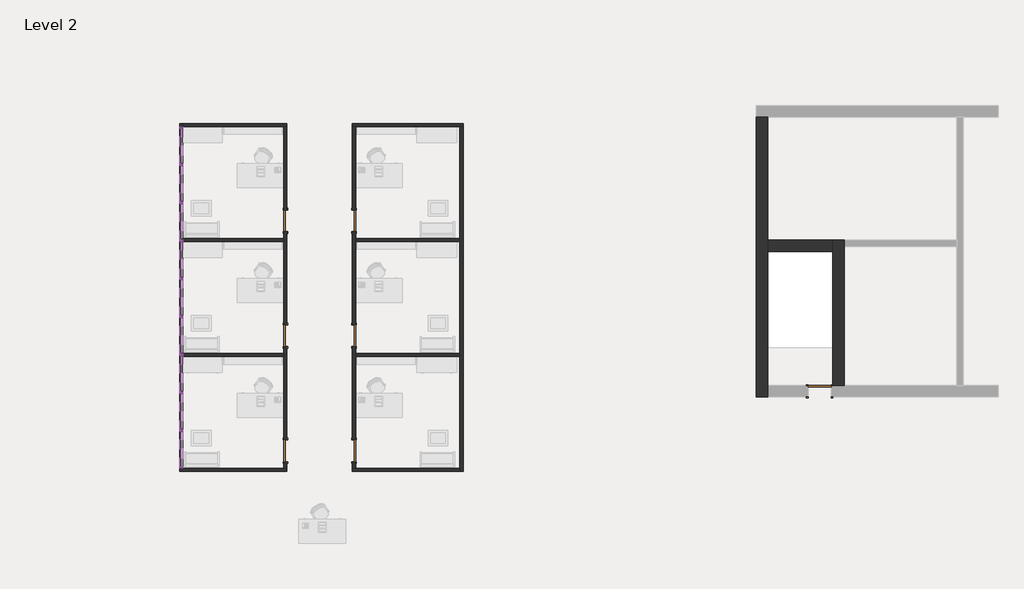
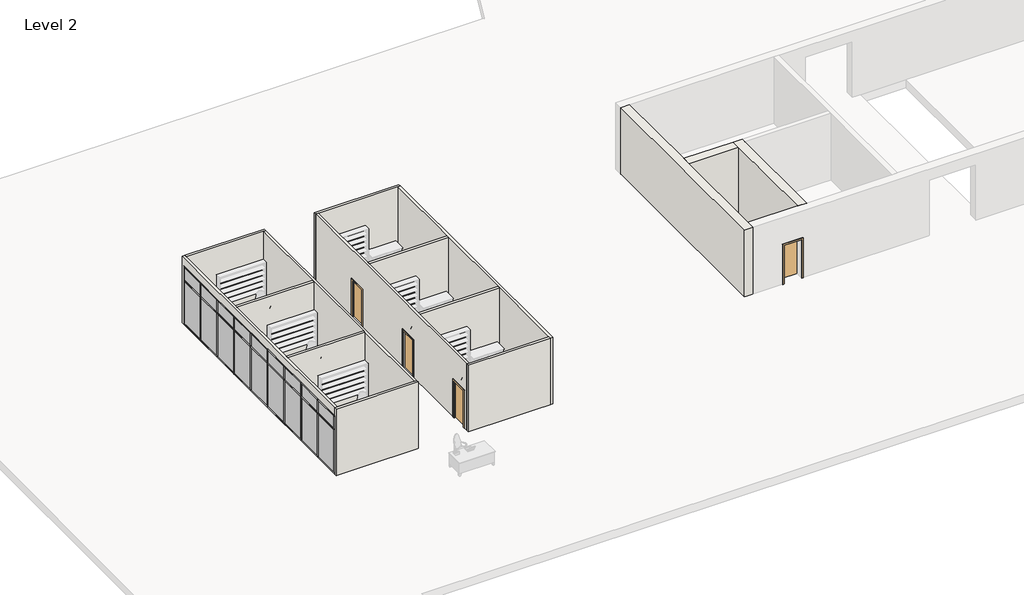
# One storey, part 1 of 2: 47 members, 18 plates, 15 walls, 7 doors.
"""IFC4 building model written with IfcOpenShell, lengths in millimetres."""

from ifc_helpers import new_model, si_unit, frame, origin, place, context, project, spatial, polyline, outline, extrude, faceted_brep, transform, mapped, element, save
from components import door_82111de5, door_92889684, door_3c99239a, member_fc09b6aa, member_9597caa3, member_b2bde9e6, member_131a91bd, member_8e4b14e5, member_ef392650, member_3251410a, system_panel_glazed_f771dc8d, system_panel_glazed_f1d9fa5b, system_panel_glazed_43c0bd6e, system_panel_glazed_38f416ca

model = new_model("IFC4")

# Units and contexts
model_context = context("Model", 3, world=origin())
ifc_project = project(units=[si_unit("LENGTHUNIT", "METRE", prefix="MILLI")], contexts=[model_context])

# Site, building, storey
site = spatial("IfcSite", under=ifc_project)
building = spatial("IfcBuilding", under=site)
storey = spatial("IfcBuildingStorey", under=building, Name="Level 2", Elevation=3657.6)

# Doors
placement = place(None, origin())
door_shape = door_82111de5(model_context)
element("IfcDoor", 1, ObjectType="Single-Flush : 34\" x 80\"", at=placement, inside=storey, context=model_context, shape_type="MappedRepresentation", body=[
    mapped(door_shape, transform((-51923.5856498, -16957.0103492, 3657.6), x_axis=(0.0, -1.0, 0.0), y_axis=(1.0, 0.0, 0.0), z_axis=(0.0, 0.0, 1.0))),
])
element("IfcDoor", 2, ObjectType="Single-Flush : 34\" x 80\"", at=placement, inside=storey, context=model_context, shape_type="MappedRepresentation", body=[
    mapped(door_shape, transform((-51923.5856498, -12385.0103492, 3657.6), x_axis=(0.0, -1.0, 0.0), y_axis=(1.0, 0.0, 0.0), z_axis=(0.0, 0.0, 1.0))),
])
element("IfcDoor", 3, ObjectType="Single-Flush : 34\" x 80\"", at=placement, inside=storey, context=model_context, shape_type="MappedRepresentation", body=[
    mapped(door_shape, transform((-51923.5856498, -7813.0103492, 3657.6), x_axis=(0.0, -1.0, 0.0), y_axis=(1.0, 0.0, 0.0), z_axis=(0.0, 0.0, 1.0))),
])
door_2_shape = door_92889684(model_context)
element("IfcDoor", 4, ObjectType="Single-Flush : 34\" x 80\"", at=placement, inside=storey, context=model_context, shape_type="MappedRepresentation", body=[
    mapped(door_2_shape, transform((-49194.8999355, -16957.0103492, 3657.6), x_axis=(0.0, -1.0, 0.0), y_axis=(1.0, 0.0, 0.0), z_axis=(0.0, 0.0, 1.0))),
])
element("IfcDoor", 5, ObjectType="Single-Flush : 34\" x 80\"", at=placement, inside=storey, context=model_context, shape_type="MappedRepresentation", body=[
    mapped(door_2_shape, transform((-49194.8999355, -12385.0103492, 3657.6), x_axis=(0.0, -1.0, 0.0), y_axis=(1.0, 0.0, 0.0), z_axis=(0.0, 0.0, 1.0))),
])
element("IfcDoor", 6, ObjectType="Single-Flush : 34\" x 80\"", at=placement, inside=storey, context=model_context, shape_type="MappedRepresentation", body=[
    mapped(door_2_shape, transform((-49194.8999355, -7813.0103492, 3657.6), x_axis=(0.0, -1.0, 0.0), y_axis=(1.0, 0.0, 0.0), z_axis=(0.0, 0.0, 1.0))),
])
door_3_shape = door_3c99239a(model_context)
element("IfcDoor", 7, ObjectType="Single-Flush : 36\" x 84\"", at=placement, inside=storey, context=model_context, shape_type="MappedRepresentation", body=[
    mapped(door_3_shape, transform((-30700.0713641, -14594.8103492, 3657.6), x_axis=(1.0, 0.0, 0.0), y_axis=(0.0, 1.0, 0.0), z_axis=(0.0, 0.0, 1.0))),
])

# Members
member_shape = member_fc09b6aa(model_context)
element("IfcMember", 8, ObjectType="Rectangular Mullion : 2.5\" x 5\" rectangular", at=placement, inside=storey, context=model_context, shape_type="MappedRepresentation", body=[
    mapped(member_shape, transform((-56063.7856498, -14635.7325714, 6096.0), x_axis=(0.0, 0.0, 1.0), y_axis=(1.0, 0.0, 0.0), z_axis=(0.0, 1.0, 0.0))),
])
element("IfcMember", 9, ObjectType="Rectangular Mullion : 2.5\" x 5\" rectangular", at=placement, inside=storey, context=model_context, shape_type="MappedRepresentation", body=[
    mapped(member_shape, transform((-56063.7856498, -13125.8436825, 6096.0), x_axis=(0.0, 0.0, 1.0), y_axis=(1.0, 0.0, 0.0), z_axis=(0.0, 1.0, 0.0))),
])
element("IfcMember", 10, ObjectType="Rectangular Mullion : 2.5\" x 5\" rectangular", at=placement, inside=storey, context=model_context, shape_type="MappedRepresentation", body=[
    mapped(member_shape, transform((-56063.7856498, -11615.9547936, 6096.0), x_axis=(0.0, 0.0, 1.0), y_axis=(1.0, 0.0, 0.0), z_axis=(0.0, 1.0, 0.0))),
])
element("IfcMember", 11, ObjectType="Rectangular Mullion : 2.5\" x 5\" rectangular", at=placement, inside=storey, context=model_context, shape_type="MappedRepresentation", body=[
    mapped(member_shape, transform((-56063.7856498, -10106.0659048, 6096.0), x_axis=(0.0, 0.0, 1.0), y_axis=(1.0, 0.0, 0.0), z_axis=(0.0, 1.0, 0.0))),
])
element("IfcMember", 12, ObjectType="Rectangular Mullion : 2.5\" x 5\" rectangular", at=placement, inside=storey, context=model_context, shape_type="MappedRepresentation", body=[
    mapped(member_shape, transform((-56063.7856498, -8596.1770159, 6096.0), x_axis=(0.0, 0.0, 1.0), y_axis=(1.0, 0.0, 0.0), z_axis=(0.0, 1.0, 0.0))),
])
element("IfcMember", 13, ObjectType="Rectangular Mullion : 2.5\" x 5\" rectangular", at=placement, inside=storey, context=model_context, shape_type="MappedRepresentation", body=[
    mapped(member_shape, transform((-56063.7856498, -7086.288127, 6096.0), x_axis=(0.0, 0.0, 1.0), y_axis=(1.0, 0.0, 0.0), z_axis=(0.0, 1.0, 0.0))),
])
element("IfcMember", 14, ObjectType="Rectangular Mullion : 2.5\" x 5\" rectangular", at=placement, inside=storey, context=model_context, shape_type="MappedRepresentation", body=[
    mapped(member_shape, transform((-56063.7856498, -5576.3992381, 6096.0), x_axis=(0.0, 0.0, 1.0), y_axis=(1.0, 0.0, 0.0), z_axis=(0.0, 1.0, 0.0))),
])
member_2_shape = member_9597caa3(model_context)
element("IfcMember", 15, ObjectType="Rectangular Mullion : 2.5\" x 5\" rectangular", at=placement, inside=storey, context=model_context, shape_type="MappedRepresentation", body=[
    mapped(member_2_shape, transform((-56063.7856498, -16145.6214603, 3721.1), x_axis=(0.0, 1.0, 0.0), y_axis=(1.0, 0.0, 0.0), z_axis=(0.0, 0.0, -1.0))),
])
element("IfcMember", 16, ObjectType="Rectangular Mullion : 2.5\" x 5\" rectangular", at=placement, inside=storey, context=model_context, shape_type="MappedRepresentation", body=[
    mapped(member_2_shape, transform((-56063.7856498, -14635.7325714, 3721.1), x_axis=(0.0, 1.0, 0.0), y_axis=(1.0, 0.0, 0.0), z_axis=(0.0, 0.0, -1.0))),
])
element("IfcMember", 17, ObjectType="Rectangular Mullion : 2.5\" x 5\" rectangular", at=placement, inside=storey, context=model_context, shape_type="MappedRepresentation", body=[
    mapped(member_2_shape, transform((-56063.7856498, -13125.8436825, 3721.1), x_axis=(0.0, 1.0, 0.0), y_axis=(1.0, 0.0, 0.0), z_axis=(0.0, 0.0, -1.0))),
])
element("IfcMember", 18, ObjectType="Rectangular Mullion : 2.5\" x 5\" rectangular", at=placement, inside=storey, context=model_context, shape_type="MappedRepresentation", body=[
    mapped(member_2_shape, transform((-56063.7856498, -11615.9547936, 3721.1), x_axis=(0.0, 1.0, 0.0), y_axis=(1.0, 0.0, 0.0), z_axis=(0.0, 0.0, -1.0))),
])
element("IfcMember", 19, ObjectType="Rectangular Mullion : 2.5\" x 5\" rectangular", at=placement, inside=storey, context=model_context, shape_type="MappedRepresentation", body=[
    mapped(member_2_shape, transform((-56063.7856498, -10106.0659048, 3721.1), x_axis=(0.0, 1.0, 0.0), y_axis=(1.0, 0.0, 0.0), z_axis=(0.0, 0.0, -1.0))),
])
element("IfcMember", 20, ObjectType="Rectangular Mullion : 2.5\" x 5\" rectangular", at=placement, inside=storey, context=model_context, shape_type="MappedRepresentation", body=[
    mapped(member_2_shape, transform((-56063.7856498, -8596.1770159, 3721.1), x_axis=(0.0, 1.0, 0.0), y_axis=(1.0, 0.0, 0.0), z_axis=(0.0, 0.0, -1.0))),
])
element("IfcMember", 21, ObjectType="Rectangular Mullion : 2.5\" x 5\" rectangular", at=placement, inside=storey, context=model_context, shape_type="MappedRepresentation", body=[
    mapped(member_2_shape, transform((-56063.7856498, -7086.288127, 3721.1), x_axis=(0.0, 1.0, 0.0), y_axis=(1.0, 0.0, 0.0), z_axis=(0.0, 0.0, -1.0))),
])
element("IfcMember", 22, ObjectType="Rectangular Mullion : 2.5\" x 5\" rectangular", at=placement, inside=storey, context=model_context, shape_type="MappedRepresentation", body=[
    mapped(member_2_shape, transform((-56063.7856498, -5576.3992381, 3721.1), x_axis=(0.0, 1.0, 0.0), y_axis=(1.0, 0.0, 0.0), z_axis=(0.0, 0.0, -1.0))),
])
member_3_shape = member_b2bde9e6(model_context)
element("IfcMember", 23, ObjectType="Rectangular Mullion : 2.5\" x 5\" rectangular", at=placement, inside=storey, context=model_context, shape_type="MappedRepresentation", body=[
    mapped(member_3_shape, transform((-56063.7856498, -4066.5103492, 3721.1), x_axis=(0.0, 1.0, 0.0), y_axis=(1.0, 0.0, 0.0), z_axis=(0.0, 0.0, -1.0))),
])
element("IfcMember", 24, ObjectType="Rectangular Mullion : 2.5\" x 5\" rectangular", at=placement, inside=storey, context=model_context, shape_type="MappedRepresentation", body=[
    mapped(member_3_shape, transform((-56063.7856498, -17655.5103492, 6096.0), x_axis=(0.0, -1.0, 0.0), y_axis=(1.0, 0.0, 0.0), z_axis=(0.0, 0.0, 1.0))),
])
member_4_shape = member_131a91bd(model_context)
element("IfcMember", 25, ObjectType="Rectangular Mullion : 2.5\" x 5\" rectangular", at=placement, inside=storey, context=model_context, shape_type="MappedRepresentation", body=[
    mapped(member_4_shape, transform((-56063.7856498, -4066.5103492, 6883.4), x_axis=(0.0, 0.0, 1.0), y_axis=(1.0, 0.0, 0.0), z_axis=(0.0, 1.0, 0.0))),
])
element("IfcMember", 26, ObjectType="Rectangular Mullion : 2.5\" x 5\" rectangular", at=placement, inside=storey, context=model_context, shape_type="MappedRepresentation", body=[
    mapped(member_4_shape, transform((-56063.7856498, -16145.6214603, 6883.4), x_axis=(0.0, 0.0, 1.0), y_axis=(1.0, 0.0, 0.0), z_axis=(0.0, 1.0, 0.0))),
])
element("IfcMember", 27, ObjectType="Rectangular Mullion : 2.5\" x 5\" rectangular", at=placement, inside=storey, context=model_context, shape_type="MappedRepresentation", body=[
    mapped(member_4_shape, transform((-56063.7856498, -14635.7325714, 6883.4), x_axis=(0.0, 0.0, 1.0), y_axis=(1.0, 0.0, 0.0), z_axis=(0.0, 1.0, 0.0))),
])
element("IfcMember", 28, ObjectType="Rectangular Mullion : 2.5\" x 5\" rectangular", at=placement, inside=storey, context=model_context, shape_type="MappedRepresentation", body=[
    mapped(member_4_shape, transform((-56063.7856498, -13125.8436825, 6883.4), x_axis=(0.0, 0.0, 1.0), y_axis=(1.0, 0.0, 0.0), z_axis=(0.0, 1.0, 0.0))),
])
element("IfcMember", 29, ObjectType="Rectangular Mullion : 2.5\" x 5\" rectangular", at=placement, inside=storey, context=model_context, shape_type="MappedRepresentation", body=[
    mapped(member_4_shape, transform((-56063.7856498, -11615.9547936, 6883.4), x_axis=(0.0, 0.0, 1.0), y_axis=(1.0, 0.0, 0.0), z_axis=(0.0, 1.0, 0.0))),
])
element("IfcMember", 30, ObjectType="Rectangular Mullion : 2.5\" x 5\" rectangular", at=placement, inside=storey, context=model_context, shape_type="MappedRepresentation", body=[
    mapped(member_4_shape, transform((-56063.7856498, -10106.0659048, 6883.4), x_axis=(0.0, 0.0, 1.0), y_axis=(1.0, 0.0, 0.0), z_axis=(0.0, 1.0, 0.0))),
])
element("IfcMember", 31, ObjectType="Rectangular Mullion : 2.5\" x 5\" rectangular", at=placement, inside=storey, context=model_context, shape_type="MappedRepresentation", body=[
    mapped(member_4_shape, transform((-56063.7856498, -8596.1770159, 6883.4), x_axis=(0.0, 0.0, 1.0), y_axis=(1.0, 0.0, 0.0), z_axis=(0.0, 1.0, 0.0))),
])
element("IfcMember", 32, ObjectType="Rectangular Mullion : 2.5\" x 5\" rectangular", at=placement, inside=storey, context=model_context, shape_type="MappedRepresentation", body=[
    mapped(member_4_shape, transform((-56063.7856498, -7086.288127, 6883.4), x_axis=(0.0, 0.0, 1.0), y_axis=(1.0, 0.0, 0.0), z_axis=(0.0, 1.0, 0.0))),
])
element("IfcMember", 33, ObjectType="Rectangular Mullion : 2.5\" x 5\" rectangular", at=placement, inside=storey, context=model_context, shape_type="MappedRepresentation", body=[
    mapped(member_4_shape, transform((-56063.7856498, -5576.3992381, 6883.4), x_axis=(0.0, 0.0, 1.0), y_axis=(1.0, 0.0, 0.0), z_axis=(0.0, 1.0, 0.0))),
])
element("IfcMember", 34, ObjectType="Rectangular Mullion : 2.5\" x 5\" rectangular", at=placement, inside=storey, context=model_context, shape_type="MappedRepresentation", body=[
    mapped(member_4_shape, transform((-56063.7856498, -17655.5103492, 3657.6), x_axis=(0.0, 0.0, -1.0), y_axis=(1.0, 0.0, 0.0), z_axis=(0.0, -1.0, 0.0))),
])
element("IfcMember", 35, ObjectType="Rectangular Mullion : 2.5\" x 5\" rectangular", at=placement, inside=storey, context=model_context, shape_type="MappedRepresentation", body=[
    mapped(member_4_shape, transform((-56063.7856498, -16145.6214603, 3657.6), x_axis=(0.0, 0.0, -1.0), y_axis=(1.0, 0.0, 0.0), z_axis=(0.0, -1.0, 0.0))),
])
element("IfcMember", 36, ObjectType="Rectangular Mullion : 2.5\" x 5\" rectangular", at=placement, inside=storey, context=model_context, shape_type="MappedRepresentation", body=[
    mapped(member_4_shape, transform((-56063.7856498, -14635.7325714, 3657.6), x_axis=(0.0, 0.0, -1.0), y_axis=(1.0, 0.0, 0.0), z_axis=(0.0, -1.0, 0.0))),
])
element("IfcMember", 37, ObjectType="Rectangular Mullion : 2.5\" x 5\" rectangular", at=placement, inside=storey, context=model_context, shape_type="MappedRepresentation", body=[
    mapped(member_4_shape, transform((-56063.7856498, -13125.8436825, 3657.6), x_axis=(0.0, 0.0, -1.0), y_axis=(1.0, 0.0, 0.0), z_axis=(0.0, -1.0, 0.0))),
])
element("IfcMember", 38, ObjectType="Rectangular Mullion : 2.5\" x 5\" rectangular", at=placement, inside=storey, context=model_context, shape_type="MappedRepresentation", body=[
    mapped(member_4_shape, transform((-56063.7856498, -11615.9547936, 3657.6), x_axis=(0.0, 0.0, -1.0), y_axis=(1.0, 0.0, 0.0), z_axis=(0.0, -1.0, 0.0))),
])
element("IfcMember", 39, ObjectType="Rectangular Mullion : 2.5\" x 5\" rectangular", at=placement, inside=storey, context=model_context, shape_type="MappedRepresentation", body=[
    mapped(member_4_shape, transform((-56063.7856498, -10106.0659048, 3657.6), x_axis=(0.0, 0.0, -1.0), y_axis=(1.0, 0.0, 0.0), z_axis=(0.0, -1.0, 0.0))),
])
element("IfcMember", 40, ObjectType="Rectangular Mullion : 2.5\" x 5\" rectangular", at=placement, inside=storey, context=model_context, shape_type="MappedRepresentation", body=[
    mapped(member_4_shape, transform((-56063.7856498, -8596.1770159, 3657.6), x_axis=(0.0, 0.0, -1.0), y_axis=(1.0, 0.0, 0.0), z_axis=(0.0, -1.0, 0.0))),
])
element("IfcMember", 41, ObjectType="Rectangular Mullion : 2.5\" x 5\" rectangular", at=placement, inside=storey, context=model_context, shape_type="MappedRepresentation", body=[
    mapped(member_4_shape, transform((-56063.7856498, -7086.288127, 3657.6), x_axis=(0.0, 0.0, -1.0), y_axis=(1.0, 0.0, 0.0), z_axis=(0.0, -1.0, 0.0))),
])
element("IfcMember", 42, ObjectType="Rectangular Mullion : 2.5\" x 5\" rectangular", at=placement, inside=storey, context=model_context, shape_type="MappedRepresentation", body=[
    mapped(member_4_shape, transform((-56063.7856498, -5576.3992381, 3657.6), x_axis=(0.0, 0.0, -1.0), y_axis=(1.0, 0.0, 0.0), z_axis=(0.0, -1.0, 0.0))),
])
member_5_shape = member_8e4b14e5(model_context)
element("IfcMember", 43, ObjectType="Rectangular Mullion : 2.5\" x 5\" rectangular", at=placement, inside=storey, context=model_context, shape_type="MappedRepresentation", body=[
    mapped(member_5_shape, transform((-56063.7856498, -16145.6214603, 6096.0), x_axis=(0.0, 0.0, 1.0), y_axis=(1.0, 0.0, 0.0), z_axis=(0.0, 1.0, 0.0))),
])
element("IfcMember", 44, ObjectType="Rectangular Mullion : 2.5\" x 5\" rectangular", at=placement, inside=storey, context=model_context, shape_type="MappedRepresentation", body=[
    mapped(member_5_shape, transform((-56063.7856498, -4130.0103492, 6096.0), x_axis=(0.0, 0.0, 1.0), y_axis=(1.0, 0.0, 0.0), z_axis=(0.0, 1.0, 0.0))),
])
member_6_shape = member_ef392650(model_context)
element("IfcMember", 45, ObjectType="Rectangular Mullion : 2.5\" x 5\" rectangular", at=placement, inside=storey, context=model_context, shape_type="MappedRepresentation", body=[
    mapped(member_6_shape, transform((-56063.7856498, -16145.6214603, 6127.75), x_axis=(0.0, 1.0, 0.0), y_axis=(1.0, 0.0, 0.0), z_axis=(0.0, 0.0, -1.0))),
])
element("IfcMember", 46, ObjectType="Rectangular Mullion : 2.5\" x 5\" rectangular", at=placement, inside=storey, context=model_context, shape_type="MappedRepresentation", body=[
    mapped(member_6_shape, transform((-56063.7856498, -14635.7325714, 6127.75), x_axis=(0.0, 1.0, 0.0), y_axis=(1.0, 0.0, 0.0), z_axis=(0.0, 0.0, -1.0))),
])
element("IfcMember", 47, ObjectType="Rectangular Mullion : 2.5\" x 5\" rectangular", at=placement, inside=storey, context=model_context, shape_type="MappedRepresentation", body=[
    mapped(member_6_shape, transform((-56063.7856498, -13125.8436825, 6127.75), x_axis=(0.0, 1.0, 0.0), y_axis=(1.0, 0.0, 0.0), z_axis=(0.0, 0.0, -1.0))),
])
element("IfcMember", 48, ObjectType="Rectangular Mullion : 2.5\" x 5\" rectangular", at=placement, inside=storey, context=model_context, shape_type="MappedRepresentation", body=[
    mapped(member_6_shape, transform((-56063.7856498, -11615.9547936, 6127.75), x_axis=(0.0, 1.0, 0.0), y_axis=(1.0, 0.0, 0.0), z_axis=(0.0, 0.0, -1.0))),
])
element("IfcMember", 49, ObjectType="Rectangular Mullion : 2.5\" x 5\" rectangular", at=placement, inside=storey, context=model_context, shape_type="MappedRepresentation", body=[
    mapped(member_6_shape, transform((-56063.7856498, -10106.0659048, 6127.75), x_axis=(0.0, 1.0, 0.0), y_axis=(1.0, 0.0, 0.0), z_axis=(0.0, 0.0, -1.0))),
])
element("IfcMember", 50, ObjectType="Rectangular Mullion : 2.5\" x 5\" rectangular", at=placement, inside=storey, context=model_context, shape_type="MappedRepresentation", body=[
    mapped(member_6_shape, transform((-56063.7856498, -8596.1770159, 6127.75), x_axis=(0.0, 1.0, 0.0), y_axis=(1.0, 0.0, 0.0), z_axis=(0.0, 0.0, -1.0))),
])
element("IfcMember", 51, ObjectType="Rectangular Mullion : 2.5\" x 5\" rectangular", at=placement, inside=storey, context=model_context, shape_type="MappedRepresentation", body=[
    mapped(member_6_shape, transform((-56063.7856498, -7086.288127, 6127.75), x_axis=(0.0, 1.0, 0.0), y_axis=(1.0, 0.0, 0.0), z_axis=(0.0, 0.0, -1.0))),
])
element("IfcMember", 52, ObjectType="Rectangular Mullion : 2.5\" x 5\" rectangular", at=placement, inside=storey, context=model_context, shape_type="MappedRepresentation", body=[
    mapped(member_6_shape, transform((-56063.7856498, -5576.3992381, 6127.75), x_axis=(0.0, 1.0, 0.0), y_axis=(1.0, 0.0, 0.0), z_axis=(0.0, 0.0, -1.0))),
])
member_7_shape = member_3251410a(model_context)
element("IfcMember", 53, ObjectType="Rectangular Mullion : 2.5\" x 5\" rectangular", at=placement, inside=storey, context=model_context, shape_type="MappedRepresentation", body=[
    mapped(member_7_shape, transform((-56063.7856498, -4066.5103492, 6096.0), x_axis=(0.0, 1.0, 0.0), y_axis=(1.0, 0.0, 0.0), z_axis=(0.0, 0.0, -1.0))),
])
element("IfcMember", 54, ObjectType="Rectangular Mullion : 2.5\" x 5\" rectangular", at=placement, inside=storey, context=model_context, shape_type="MappedRepresentation", body=[
    mapped(member_7_shape, transform((-56063.7856498, -17655.5103492, 6819.9), x_axis=(0.0, -1.0, 0.0), y_axis=(1.0, 0.0, 0.0), z_axis=(0.0, 0.0, 1.0))),
])

# Plates
system_panel_glazed_shape = system_panel_glazed_f771dc8d(model_context)
element("IfcPlate", 55, ObjectType="System Panel : Glazed", at=placement, inside=storey, context=model_context, shape_type="MappedRepresentation", body=[
    mapped(system_panel_glazed_shape, transform((-56063.7856498, -16884.6909048, 3721.1), x_axis=(0.0, 1.0, 0.0), y_axis=(-1.0, 0.0, 0.0), z_axis=(0.0, 0.0, 1.0))),
])
element("IfcPlate", 56, ObjectType="System Panel : Glazed", at=placement, inside=storey, context=model_context, shape_type="MappedRepresentation", body=[
    mapped(system_panel_glazed_shape, transform((-56063.7856498, -4837.3297936, 3721.1), x_axis=(0.0, 1.0, 0.0), y_axis=(-1.0, 0.0, 0.0), z_axis=(0.0, 0.0, 1.0))),
])
system_panel_glazed_2_shape = system_panel_glazed_f1d9fa5b(model_context)
element("IfcPlate", 57, ObjectType="System Panel : Glazed", at=placement, inside=storey, context=model_context, shape_type="MappedRepresentation", body=[
    mapped(system_panel_glazed_2_shape, transform((-56063.7856498, -15390.6770159, 3721.1), x_axis=(0.0, 1.0, 0.0), y_axis=(-1.0, 0.0, 0.0), z_axis=(0.0, 0.0, 1.0))),
])
element("IfcPlate", 58, ObjectType="System Panel : Glazed", at=placement, inside=storey, context=model_context, shape_type="MappedRepresentation", body=[
    mapped(system_panel_glazed_2_shape, transform((-56063.7856498, -13880.788127, 3721.1), x_axis=(0.0, 1.0, 0.0), y_axis=(-1.0, 0.0, 0.0), z_axis=(0.0, 0.0, 1.0))),
])
element("IfcPlate", 59, ObjectType="System Panel : Glazed", at=placement, inside=storey, context=model_context, shape_type="MappedRepresentation", body=[
    mapped(system_panel_glazed_2_shape, transform((-56063.7856498, -12370.8992381, 3721.1), x_axis=(0.0, 1.0, 0.0), y_axis=(-1.0, 0.0, 0.0), z_axis=(0.0, 0.0, 1.0))),
])
element("IfcPlate", 60, ObjectType="System Panel : Glazed", at=placement, inside=storey, context=model_context, shape_type="MappedRepresentation", body=[
    mapped(system_panel_glazed_2_shape, transform((-56063.7856498, -10861.0103492, 3721.1), x_axis=(0.0, 1.0, 0.0), y_axis=(-1.0, 0.0, 0.0), z_axis=(0.0, 0.0, 1.0))),
])
element("IfcPlate", 61, ObjectType="System Panel : Glazed", at=placement, inside=storey, context=model_context, shape_type="MappedRepresentation", body=[
    mapped(system_panel_glazed_2_shape, transform((-56063.7856498, -9351.1214603, 3721.1), x_axis=(0.0, 1.0, 0.0), y_axis=(-1.0, 0.0, 0.0), z_axis=(0.0, 0.0, 1.0))),
])
element("IfcPlate", 62, ObjectType="System Panel : Glazed", at=placement, inside=storey, context=model_context, shape_type="MappedRepresentation", body=[
    mapped(system_panel_glazed_2_shape, transform((-56063.7856498, -7841.2325714, 3721.1), x_axis=(0.0, 1.0, 0.0), y_axis=(-1.0, 0.0, 0.0), z_axis=(0.0, 0.0, 1.0))),
])
element("IfcPlate", 63, ObjectType="System Panel : Glazed", at=placement, inside=storey, context=model_context, shape_type="MappedRepresentation", body=[
    mapped(system_panel_glazed_2_shape, transform((-56063.7856498, -6331.3436825, 3721.1), x_axis=(0.0, 1.0, 0.0), y_axis=(-1.0, 0.0, 0.0), z_axis=(0.0, 0.0, 1.0))),
])
system_panel_glazed_3_shape = system_panel_glazed_43c0bd6e(model_context)
element("IfcPlate", 64, ObjectType="System Panel : Glazed", at=placement, inside=storey, context=model_context, shape_type="MappedRepresentation", body=[
    mapped(system_panel_glazed_3_shape, transform((-56063.7856498, -16884.6909048, 6127.75), x_axis=(0.0, 1.0, 0.0), y_axis=(-1.0, 0.0, 0.0), z_axis=(0.0, 0.0, 1.0))),
])
element("IfcPlate", 65, ObjectType="System Panel : Glazed", at=placement, inside=storey, context=model_context, shape_type="MappedRepresentation", body=[
    mapped(system_panel_glazed_3_shape, transform((-56063.7856498, -4837.3297936, 6127.75), x_axis=(0.0, 1.0, 0.0), y_axis=(-1.0, 0.0, 0.0), z_axis=(0.0, 0.0, 1.0))),
])
system_panel_glazed_4_shape = system_panel_glazed_38f416ca(model_context)
element("IfcPlate", 66, ObjectType="System Panel : Glazed", at=placement, inside=storey, context=model_context, shape_type="MappedRepresentation", body=[
    mapped(system_panel_glazed_4_shape, transform((-56063.7856498, -15390.6770159, 6127.75), x_axis=(0.0, 1.0, 0.0), y_axis=(-1.0, 0.0, 0.0), z_axis=(0.0, 0.0, 1.0))),
])
element("IfcPlate", 67, ObjectType="System Panel : Glazed", at=placement, inside=storey, context=model_context, shape_type="MappedRepresentation", body=[
    mapped(system_panel_glazed_4_shape, transform((-56063.7856498, -13880.788127, 6127.75), x_axis=(0.0, 1.0, 0.0), y_axis=(-1.0, 0.0, 0.0), z_axis=(0.0, 0.0, 1.0))),
])
element("IfcPlate", 68, ObjectType="System Panel : Glazed", at=placement, inside=storey, context=model_context, shape_type="MappedRepresentation", body=[
    mapped(system_panel_glazed_4_shape, transform((-56063.7856498, -12370.8992381, 6127.75), x_axis=(0.0, 1.0, 0.0), y_axis=(-1.0, 0.0, 0.0), z_axis=(0.0, 0.0, 1.0))),
])
element("IfcPlate", 69, ObjectType="System Panel : Glazed", at=placement, inside=storey, context=model_context, shape_type="MappedRepresentation", body=[
    mapped(system_panel_glazed_4_shape, transform((-56063.7856498, -10861.0103492, 6127.75), x_axis=(0.0, 1.0, 0.0), y_axis=(-1.0, 0.0, 0.0), z_axis=(0.0, 0.0, 1.0))),
])
element("IfcPlate", 70, ObjectType="System Panel : Glazed", at=placement, inside=storey, context=model_context, shape_type="MappedRepresentation", body=[
    mapped(system_panel_glazed_4_shape, transform((-56063.7856498, -9351.1214603, 6127.75), x_axis=(0.0, 1.0, 0.0), y_axis=(-1.0, 0.0, 0.0), z_axis=(0.0, 0.0, 1.0))),
])
element("IfcPlate", 71, ObjectType="System Panel : Glazed", at=placement, inside=storey, context=model_context, shape_type="MappedRepresentation", body=[
    mapped(system_panel_glazed_4_shape, transform((-56063.7856498, -7841.2325714, 6127.75), x_axis=(0.0, 1.0, 0.0), y_axis=(-1.0, 0.0, 0.0), z_axis=(0.0, 0.0, 1.0))),
])
element("IfcPlate", 72, ObjectType="System Panel : Glazed", at=placement, inside=storey, context=model_context, shape_type="MappedRepresentation", body=[
    mapped(system_panel_glazed_4_shape, transform((-56063.7856498, -6331.3436825, 6127.75), x_axis=(0.0, 1.0, 0.0), y_axis=(-1.0, 0.0, 0.0), z_axis=(0.0, 0.0, 1.0))),
])

# Walls
element("IfcWall", 73, ObjectType="Core-shaft 18\" Concrete", at=placement, inside=storey, context=model_context, shape_type="Brep", body=[
    faceted_brep([(-32750.2142212, -14823.4103492, 3657.6), (-32750.2142212, -14366.2103492, 3657.6), (-32750.2142212, -9032.2103492, 3657.6), (-32750.2142212, -8575.0103492, 3657.6), (-32750.2142212, -3698.2103492, 3657.6), (-32750.2142212, -3698.2103492, 7315.2), (-32750.2142212, -8575.0103492, 7315.2), (-32750.2142212, -9032.2103492, 7315.2), (-32750.2142212, -14366.2103492, 7315.2), (-32750.2142212, -14823.4103492, 7315.2), (-33207.4142212, -14823.4103492, 3657.6), (-33207.4142212, -14823.4103492, 7315.2), (-33207.4142212, -3698.2103492, 7315.2), (-33207.4142212, -3698.2103492, 3657.6)], [[[0, 1, 2, 3, 4, 5, 6, 7, 8, 9]], [[10, 11, 12, 13]], [[4, 3, 2, 1, 0, 10, 13]], [[9, 8, 7, 6, 5, 12, 11]], [[0, 9, 11, 10]], [[5, 4, 13, 12]]]),
])
element("IfcWall", 74, ObjectType="Core-shaft 18\" Concrete", at=placement, inside=storey, context=model_context, shape_type="Brep", body=[
    faceted_brep([(-29709.4713641, -14366.2103492, 3657.6), (-29709.4713641, -8829.0103492, 3657.6), (-29709.4713641, -8575.0103492, 3657.6), (-29709.4713641, -8575.0103492, 7315.2), (-29709.4713641, -8829.0103492, 7315.2), (-29709.4713641, -14366.2103492, 7315.2), (-30166.6713641, -14366.2103492, 3657.6), (-30166.6713641, -14366.2103492, 7315.2), (-30166.6713641, -9032.2103492, 7315.2), (-30166.6713641, -8575.0103492, 7315.2), (-30166.6713641, -8575.0103492, 3657.6), (-30166.6713641, -9032.2103492, 3657.6)], [[[0, 1, 2, 3, 4, 5]], [[6, 7, 8, 9, 10, 11]], [[2, 1, 0, 6, 11, 10]], [[5, 4, 3, 9, 8, 7]], [[3, 2, 10, 9]], [[0, 5, 7, 6]]]),
])
element("IfcWall", 75, ObjectType="Core-shaft 18\" Concrete", at=placement, inside=storey, context=model_context, shape_type="SweptSolid", body=[
    extrude(outline(polyline([(-32750.2142212, -8575.0103492), (-30166.6713641, -8575.0103492), (-30166.6713641, -9032.2103492), (-32750.2142212, -9032.2103492), (-32750.2142212, -8575.0103492)])), frame((0.0, 0.0, 3657.6), z_axis=(0.0, 0.0, 1.0), x_axis=(1.0, 0.0, 0.0)), (0.0, 0.0, 1.0), 3657.6),
])
element("IfcWall", 76, ObjectType="Interior - Generic - 5\"", at=placement, inside=storey, context=model_context, shape_type="Brep", body=[
    faceted_brep([(-44864.1999355, -3939.5103492, 3657.6), (-49258.3999355, -3939.5103492, 3657.6), (-49258.3999355, -3939.5103492, 7315.2), (-44864.1999355, -3939.5103492, 7315.2), (-44864.1999355, -4066.5103492, 3657.6), (-44864.1999355, -4066.5103492, 7315.2), (-44991.1999355, -4066.5103492, 7315.2), (-49131.3999355, -4066.5103492, 7315.2), (-49258.3999355, -4066.5103492, 7315.2), (-49258.3999355, -4066.5103492, 3657.6), (-49131.3999355, -4066.5103492, 3657.6), (-44991.1999355, -4066.5103492, 3657.6)], [[[0, 1, 2, 3]], [[4, 5, 6, 7, 8, 9, 10, 11]], [[1, 0, 4, 11, 10, 9]], [[3, 2, 8, 7, 6, 5]], [[0, 3, 5, 4]], [[2, 1, 9, 8]]]),
])
element("IfcWall", 77, ObjectType="Interior - Generic - 5\"", at=placement, inside=storey, context=model_context, shape_type="Brep", body=[
    faceted_brep([(-44864.1999355, -17782.5103492, 3657.6), (-44864.1999355, -4066.5103492, 3657.6), (-44864.1999355, -4066.5103492, 7315.2), (-44864.1999355, -17782.5103492, 7315.2), (-44991.1999355, -17782.5103492, 3657.6), (-44991.1999355, -17782.5103492, 7315.2), (-44991.1999355, -17655.5103492, 7315.2), (-44991.1999355, -13210.5103492, 7315.2), (-44991.1999355, -13083.5103492, 7315.2), (-44991.1999355, -8638.5103492, 7315.2), (-44991.1999355, -8511.5103492, 7315.2), (-44991.1999355, -4066.5103492, 7315.2), (-44991.1999355, -4066.5103492, 3657.6), (-44991.1999355, -8511.5103492, 3657.6), (-44991.1999355, -8638.5103492, 3657.6), (-44991.1999355, -13083.5103492, 3657.6), (-44991.1999355, -13210.5103492, 3657.6), (-44991.1999355, -17655.5103492, 3657.6)], [[[0, 1, 2, 3]], [[4, 5, 6, 7, 8, 9, 10, 11, 12, 13, 14, 15, 16, 17]], [[1, 0, 4, 17, 16, 15, 14, 13, 12]], [[3, 2, 11, 10, 9, 8, 7, 6, 5]], [[0, 3, 5, 4]], [[2, 1, 12, 11]]]),
])
element("IfcWall", 78, ObjectType="Interior - Generic - 5\"", at=placement, inside=storey, context=model_context, shape_type="Brep", body=[
    faceted_brep([(-56127.2856498, -17782.5103492, 3657.6), (-51860.0856498, -17782.5103492, 3657.6), (-51860.0856498, -17782.5103492, 7315.2), (-56127.2856498, -17782.5103492, 7315.2), (-56127.2856498, -17655.5103492, 3657.6), (-56127.2856498, -17655.5103492, 7315.2), (-51987.0856498, -17655.5103492, 7315.2), (-51860.0856498, -17655.5103492, 7315.2), (-51860.0856498, -17655.5103492, 3657.6), (-51987.0856498, -17655.5103492, 3657.6)], [[[0, 1, 2, 3]], [[4, 5, 6, 7, 8, 9]], [[1, 0, 4, 9, 8]], [[3, 2, 7, 6, 5]], [[0, 3, 5, 4]], [[2, 1, 8, 7]]]),
])
element("IfcWall", 79, ObjectType="Interior - Generic - 5\"", at=placement, inside=storey, context=model_context, shape_type="Brep", body=[
    faceted_brep([(-56127.2856498, -17655.5103492, 7315.2), (-56127.2856498, -3939.5103492, 7315.2), (-56127.2856498, -3939.5103492, 3657.6), (-56127.2856498, -4066.5103492, 3657.6), (-56127.2856498, -4066.5103492, 6883.4), (-56127.2856498, -17655.5103492, 6883.4), (-56000.2856498, -3939.5103492, 7315.2), (-56000.2856498, -4066.5103492, 7315.2), (-56000.2856498, -8511.5103492, 7315.2), (-56000.2856498, -8638.5103492, 7315.2), (-56000.2856498, -13083.5103492, 7315.2), (-56000.2856498, -13210.5103492, 7315.2), (-56000.2856498, -17655.5103492, 7315.2), (-56000.2856498, -17655.5103492, 6883.4), (-56000.2856498, -4066.5103492, 6883.4), (-56000.2856498, -4066.5103492, 3657.6), (-56000.2856498, -3939.5103492, 3657.6)], [[[0, 1, 2, 3, 4, 5]], [[6, 7, 8, 9, 10, 11, 12, 13, 14, 15, 16]], [[2, 16, 15, 3]], [[1, 0, 12, 11, 10, 9, 8, 7, 6]], [[2, 1, 6, 16]], [[12, 0, 5, 13]], [[14, 4, 3, 15]], [[4, 14, 13, 5]]]),
])
element("IfcWall", 80, ObjectType="Interior - Generic - 5\"", at=placement, inside=storey, context=model_context, shape_type="Brep", body=[
    faceted_brep([(-49131.3999355, -11953.2103492, 3657.6), (-49131.3999355, -8638.5103492, 3657.6), (-49131.3999355, -8511.5103492, 3657.6), (-49131.3999355, -8244.8103492, 3657.6), (-49131.3999355, -8244.8103492, 5689.6), (-49131.3999355, -7381.2103492, 5689.6), (-49131.3999355, -7381.2103492, 3657.6), (-49131.3999355, -4066.5103492, 3657.6), (-49131.3999355, -4066.5103492, 7315.2), (-49131.3999355, -8511.5103492, 7315.2), (-49131.3999355, -8638.5103492, 7315.2), (-49131.3999355, -13083.5103492, 7315.2), (-49131.3999355, -13210.5103492, 7315.2), (-49131.3999355, -17655.5103492, 7315.2), (-49131.3999355, -17655.5103492, 3657.6), (-49131.3999355, -17388.8103492, 3657.6), (-49131.3999355, -17388.8103492, 5689.6), (-49131.3999355, -16525.2103492, 5689.6), (-49131.3999355, -16525.2103492, 3657.6), (-49131.3999355, -13210.5103492, 3657.6), (-49131.3999355, -13083.5103492, 3657.6), (-49131.3999355, -12816.8103492, 3657.6), (-49131.3999355, -12816.8103492, 5689.6), (-49131.3999355, -11953.2103492, 5689.6), (-49258.3999355, -8244.8103492, 5689.6), (-49258.3999355, -8244.8103492, 3657.6), (-49258.3999355, -11953.2103492, 3657.6), (-49258.3999355, -11953.2103492, 5689.6), (-49258.3999355, -12816.8103492, 5689.6), (-49258.3999355, -12816.8103492, 3657.6), (-49258.3999355, -16525.2103492, 3657.6), (-49258.3999355, -16525.2103492, 5689.6), (-49258.3999355, -17388.8103492, 5689.6), (-49258.3999355, -17388.8103492, 3657.6), (-49258.3999355, -17655.5103492, 3657.6), (-49258.3999355, -17655.5103492, 7315.2), (-49258.3999355, -4066.5103492, 7315.2), (-49258.3999355, -4066.5103492, 3657.6), (-49258.3999355, -7381.2103492, 3657.6), (-49258.3999355, -7381.2103492, 5689.6)], [[[0, 1, 2, 3, 4, 5, 6, 7, 8, 9, 10, 11, 12, 13, 14, 15, 16, 17, 18, 19, 20, 21, 22, 23]], [[24, 25, 26, 27, 28, 29, 30, 31, 32, 33, 34, 35, 36, 37, 38, 39]], [[34, 33, 15, 14]], [[30, 29, 21, 20, 19, 18]], [[38, 37, 7, 6]], [[26, 25, 3, 2, 1, 0]], [[13, 12, 11, 10, 9, 8, 36, 35]], [[8, 7, 37, 36]], [[14, 13, 35, 34]], [[16, 15, 33, 32]], [[17, 16, 32, 31]], [[18, 17, 31, 30]], [[22, 21, 29, 28]], [[23, 22, 28, 27]], [[0, 23, 27, 26]], [[4, 3, 25, 24]], [[5, 4, 24, 39]], [[6, 5, 39, 38]]]),
])
element("IfcWall", 81, ObjectType="Interior - Generic - 5\"", at=placement, inside=storey, context=model_context, shape_type="Brep", body=[
    faceted_brep([(-51987.0856498, -8244.8103492, 5689.6), (-51987.0856498, -8244.8103492, 3657.6), (-51987.0856498, -8511.5103492, 3657.6), (-51987.0856498, -8638.5103492, 3657.6), (-51987.0856498, -11953.2103492, 3657.6), (-51987.0856498, -11953.2103492, 5689.6), (-51987.0856498, -12816.8103492, 5689.6), (-51987.0856498, -12816.8103492, 3657.6), (-51987.0856498, -13083.5103492, 3657.6), (-51987.0856498, -13210.5103492, 3657.6), (-51987.0856498, -16525.2103492, 3657.6), (-51987.0856498, -16525.2103492, 5689.6), (-51987.0856498, -17388.8103492, 5689.6), (-51987.0856498, -17388.8103492, 3657.6), (-51987.0856498, -17655.5103492, 3657.6), (-51987.0856498, -17655.5103492, 7315.2), (-51987.0856498, -13210.5103492, 7315.2), (-51987.0856498, -13083.5103492, 7315.2), (-51987.0856498, -8638.5103492, 7315.2), (-51987.0856498, -8511.5103492, 7315.2), (-51987.0856498, -4066.5103492, 7315.2), (-51987.0856498, -4066.5103492, 3657.6), (-51987.0856498, -7381.2103492, 3657.6), (-51987.0856498, -7381.2103492, 5689.6), (-51860.0856498, -11953.2103492, 3657.6), (-51860.0856498, -8244.8103492, 3657.6), (-51860.0856498, -8244.8103492, 5689.6), (-51860.0856498, -7381.2103492, 5689.6), (-51860.0856498, -7381.2103492, 3657.6), (-51860.0856498, -4066.5103492, 3657.6), (-51860.0856498, -4066.5103492, 7315.2), (-51860.0856498, -17655.5103492, 7315.2), (-51860.0856498, -17655.5103492, 3657.6), (-51860.0856498, -17388.8103492, 3657.6), (-51860.0856498, -17388.8103492, 5689.6), (-51860.0856498, -16525.2103492, 5689.6), (-51860.0856498, -16525.2103492, 3657.6), (-51860.0856498, -12816.8103492, 3657.6), (-51860.0856498, -12816.8103492, 5689.6), (-51860.0856498, -11953.2103492, 5689.6)], [[[0, 1, 2, 3, 4, 5, 6, 7, 8, 9, 10, 11, 12, 13, 14, 15, 16, 17, 18, 19, 20, 21, 22, 23]], [[24, 25, 26, 27, 28, 29, 30, 31, 32, 33, 34, 35, 36, 37, 38, 39]], [[14, 13, 33, 32]], [[10, 9, 8, 7, 37, 36]], [[22, 21, 29, 28]], [[4, 3, 2, 1, 25, 24]], [[20, 19, 18, 17, 16, 15, 31, 30]], [[21, 20, 30, 29]], [[15, 14, 32, 31]], [[34, 33, 13, 12]], [[35, 34, 12, 11]], [[36, 35, 11, 10]], [[38, 37, 7, 6]], [[39, 38, 6, 5]], [[24, 39, 5, 4]], [[26, 25, 1, 0]], [[27, 26, 0, 23]], [[28, 27, 23, 22]]]),
])
element("IfcWall", 82, ObjectType="Interior - Generic - 5\"", at=placement, inside=storey, context=model_context, shape_type="Brep", body=[
    faceted_brep([(-49258.3999355, -17782.5103492, 3657.6), (-44991.1999355, -17782.5103492, 3657.6), (-44991.1999355, -17782.5103492, 7315.2), (-49258.3999355, -17782.5103492, 7315.2), (-49258.3999355, -17655.5103492, 3657.6), (-49258.3999355, -17655.5103492, 7315.2), (-49131.3999355, -17655.5103492, 7315.2), (-44991.1999355, -17655.5103492, 7315.2), (-44991.1999355, -17655.5103492, 3657.6), (-49131.3999355, -17655.5103492, 3657.6)], [[[0, 1, 2, 3]], [[4, 5, 6, 7, 8, 9]], [[1, 0, 4, 9, 8]], [[3, 2, 7, 6, 5]], [[2, 1, 8, 7]], [[0, 3, 5, 4]]]),
])
element("IfcWall", 83, ObjectType="Interior - Generic - 5\"", at=placement, inside=storey, context=model_context, shape_type="Brep", body=[
    faceted_brep([(-51860.0856498, -3939.5103492, 3657.6), (-56000.2856498, -3939.5103492, 3657.6), (-56000.2856498, -3939.5103492, 7315.2), (-51860.0856498, -3939.5103492, 7315.2), (-51860.0856498, -4066.5103492, 3657.6), (-51860.0856498, -4066.5103492, 7315.2), (-51987.0856498, -4066.5103492, 7315.2), (-56000.2856498, -4066.5103492, 7315.2), (-56000.2856498, -4066.5103492, 3657.6), (-51987.0856498, -4066.5103492, 3657.6)], [[[0, 1, 2, 3]], [[4, 5, 6, 7, 8, 9]], [[1, 0, 4, 9, 8]], [[3, 2, 7, 6, 5]], [[2, 1, 8, 7]], [[0, 3, 5, 4]]]),
])
element("IfcWall", 84, ObjectType="Interior - Generic - 5\"", at=placement, inside=storey, context=model_context, shape_type="SweptSolid", body=[
    extrude(outline(polyline([(-44991.1999355, -8638.5103492), (-49131.3999355, -8638.5103492), (-49131.3999355, -8511.5103492), (-44991.1999355, -8511.5103492), (-44991.1999355, -8638.5103492)])), frame((0.0, 0.0, 3657.6), z_axis=(0.0, 0.0, 1.0), x_axis=(1.0, 0.0, 0.0)), (0.0, 0.0, 1.0), 3657.6),
])
element("IfcWall", 85, ObjectType="Interior - Generic - 5\"", at=placement, inside=storey, context=model_context, shape_type="SweptSolid", body=[
    extrude(outline(polyline([(-44991.1999355, -13210.5103492), (-49131.3999355, -13210.5103492), (-49131.3999355, -13083.5103492), (-44991.1999355, -13083.5103492), (-44991.1999355, -13210.5103492)])), frame((0.0, 0.0, 3657.6), z_axis=(0.0, 0.0, 1.0), x_axis=(1.0, 0.0, 0.0)), (0.0, 0.0, 1.0), 3657.6),
])
element("IfcWall", 86, ObjectType="Interior - Generic - 5\"", at=placement, inside=storey, context=model_context, shape_type="SweptSolid", body=[
    extrude(outline(polyline([(-56000.2856498, -13083.5103492), (-51987.0856498, -13083.5103492), (-51987.0856498, -13210.5103492), (-56000.2856498, -13210.5103492), (-56000.2856498, -13083.5103492)])), frame((0.0, 0.0, 3657.6), z_axis=(0.0, 0.0, 1.0), x_axis=(1.0, 0.0, 0.0)), (0.0, 0.0, 1.0), 3657.6),
])
element("IfcWall", 87, ObjectType="Interior - Generic - 5\"", at=placement, inside=storey, context=model_context, shape_type="SweptSolid", body=[
    extrude(outline(polyline([(-56000.2856498, -8511.5103492), (-51987.0856498, -8511.5103492), (-51987.0856498, -8638.5103492), (-56000.2856498, -8638.5103492), (-56000.2856498, -8511.5103492)])), frame((0.0, 0.0, 3657.6), z_axis=(0.0, 0.0, 1.0), x_axis=(1.0, 0.0, 0.0)), (0.0, 0.0, 1.0), 3657.6),
])

save(model, "model.ifc")
